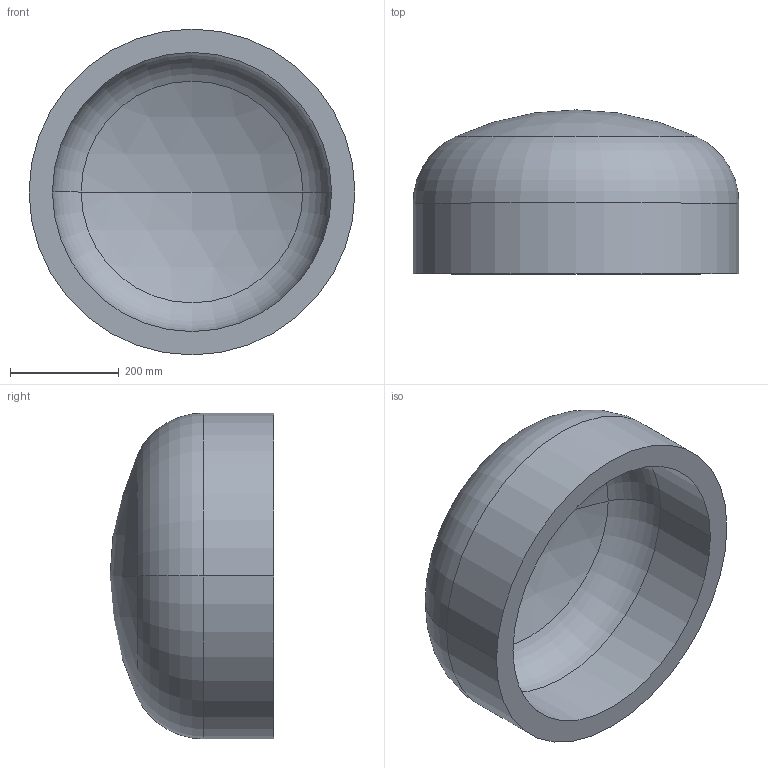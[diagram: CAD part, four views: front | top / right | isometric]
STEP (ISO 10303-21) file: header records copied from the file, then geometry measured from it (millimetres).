
FILE_DESCRIPTION (( 'STEP AP203' ), '1' );
FILE_NAME ('DIN 28013 Korbbogenform_-_Boden DIN 28013 - 600 x 130 - I - s=43.step', '2016-07-01T08:00:46', ( '' ), ( '' ), 'SwSTEP 2.0', 'SolidWorks 2013', '' );
FILE_SCHEMA (( 'CONFIG_CONTROL_DESIGN' ));
Length unit declared in the file: millimetre
Products named in the file (1): DIN 28013 Korbbogenform_-_Boden DIN 28013 - 600 x 130 - I - s=43
Bounding box: 600 x 301.83 x 600 mm (x, y, z)
Volume: 25149169.5 mm3; surface area: 1248845.5 mm2
Topology: 1 solids, 1 shells, 13 faces, 24 edges, 14 vertices
Faces by surface type: torus 4, cylinder 4, sphere 4, plane 1
Entity records: 407 total; most frequent: DIRECTION 72, CARTESIAN_POINT 52, ORIENTED_EDGE 48, AXIS2_PLACEMENT_3D 34, EDGE_CURVE 24, CIRCLE 20, EDGE_LOOP 14, VERTEX_POINT 14
